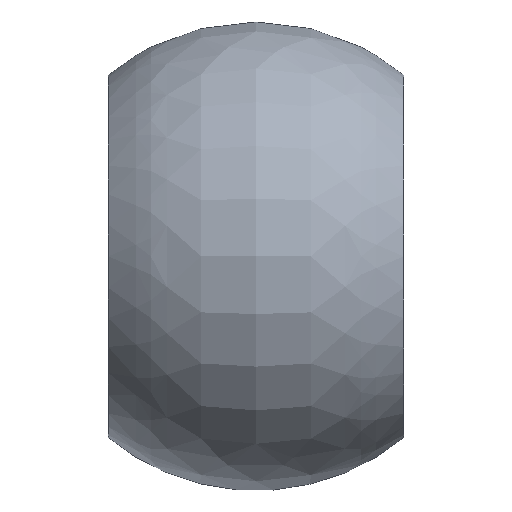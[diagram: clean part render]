
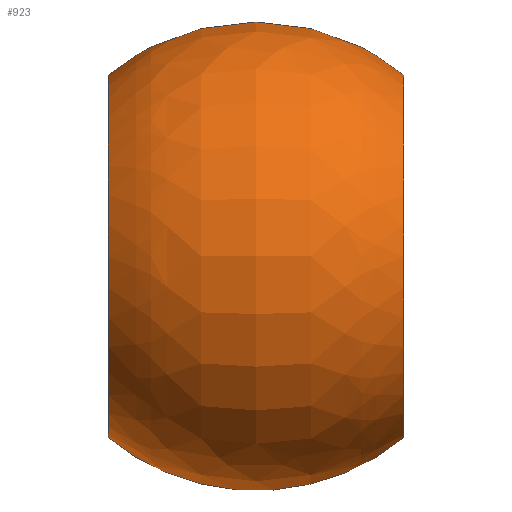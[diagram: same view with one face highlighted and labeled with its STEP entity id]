
A CAD part, left-side view. The second image highlights one B-rep face of the part: STEP entity #923.
In plain terms, the highlighted free-form (B-spline) face has degree [3, 3] with [4, 7] control points.
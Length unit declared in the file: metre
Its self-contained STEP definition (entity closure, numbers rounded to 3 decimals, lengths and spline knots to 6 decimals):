
#923=ADVANCED_FACE('',(#2060,#2061),#2062,.T.);
#2060=FACE_OUTER_BOUND('',#3449,.T.);
#2061=FACE_OUTER_BOUND('',#3450,.T.);
#2062=(B_SPLINE_SURFACE(3,3,((#3452,#3453,#3454,#3455,#3456,#3457,#3458),(#3459,#3460,#3461,#3462,#3463,#3464,#3465),(#3466,#3467,#3468,#3469,#3470,#3471,#3472),(#3473,#3474,#3475,#3476,#3477,#3478,#3479)),.UNSPECIFIED.,.F.,.T.,.F.)B_SPLINE_SURFACE_WITH_KNOTS((4,4),(4,3,4),(0.0,6.283185),(-0.689775,0.,0.689775),.UNSPECIFIED.)RATIONAL_B_SPLINE_SURFACE(((1.0,0.333,0.333,1.0,0.333,0.333,1.0),(0.848,0.283,0.283,0.848,0.283,0.283,0.848),(0.848,0.283,0.283,0.848,0.283,0.283,0.848),(1.0,0.333,0.333,1.0,0.333,0.333,1.0)))BOUNDED_SURFACE()REPRESENTATION_ITEM('')GEOMETRIC_REPRESENTATION_ITEM()SURFACE());
#3449=EDGE_LOOP('',(#5106));
#3450=EDGE_LOOP('',(#5107));
#3452=CARTESIAN_POINT('',(0.21545,-0.106926,-0.042926));
#3453=CARTESIAN_POINT('',(0.301303,-0.106926,-0.042926));
#3454=CARTESIAN_POINT('',(0.301303,-0.106926,0.042926));
#3455=CARTESIAN_POINT('',(0.21545,-0.106926,0.042926));
#3456=CARTESIAN_POINT('',(0.129597,-0.106926,0.042926));
#3457=CARTESIAN_POINT('',(0.129597,-0.106926,-0.042926));
#3458=CARTESIAN_POINT('',(0.21545,-0.106926,-0.042926));
#3459=CARTESIAN_POINT('',(0.21545,-0.08569,-0.060445));
#3460=CARTESIAN_POINT('',(0.33634,-0.08569,-0.060445));
#3461=CARTESIAN_POINT('',(0.33634,-0.08569,0.060445));
#3462=CARTESIAN_POINT('',(0.21545,-0.08569,0.060445));
#3463=CARTESIAN_POINT('',(0.09456,-0.08569,0.060445));
#3464=CARTESIAN_POINT('',(0.09456,-0.08569,-0.060445));
#3465=CARTESIAN_POINT('',(0.21545,-0.08569,-0.060445));
#3466=CARTESIAN_POINT('',(0.21545,-0.058161,-0.060445));
#3467=CARTESIAN_POINT('',(0.33634,-0.058161,-0.060445));
#3468=CARTESIAN_POINT('',(0.33634,-0.058161,0.060445));
#3469=CARTESIAN_POINT('',(0.21545,-0.058161,0.060445));
#3470=CARTESIAN_POINT('',(0.09456,-0.058161,0.060445));
#3471=CARTESIAN_POINT('',(0.09456,-0.058161,-0.060445));
#3472=CARTESIAN_POINT('',(0.21545,-0.058161,-0.060445));
#3473=CARTESIAN_POINT('',(0.21545,-0.036926,-0.042926));
#3474=CARTESIAN_POINT('',(0.301303,-0.036926,-0.042926));
#3475=CARTESIAN_POINT('',(0.301303,-0.036926,0.042926));
#3476=CARTESIAN_POINT('',(0.21545,-0.036926,0.042926));
#3477=CARTESIAN_POINT('',(0.129597,-0.036926,0.042926));
#3478=CARTESIAN_POINT('',(0.129597,-0.036926,-0.042926));
#3479=CARTESIAN_POINT('',(0.21545,-0.036926,-0.042926));
#5106=ORIENTED_EDGE('',*,*,#6077,.T.);
#5107=ORIENTED_EDGE('',*,*,#6174,.F.);
#6077=EDGE_CURVE('',#6910,#6910,#6911,.T.);
#6174=EDGE_CURVE('',#7058,#7058,#7059,.T.);
#6910=VERTEX_POINT('',#7849);
#6911=CIRCLE('',#7850,0.042926);
#7058=VERTEX_POINT('',#7997);
#7059=CIRCLE('',#7998,0.042926);
#7849=CARTESIAN_POINT('',(0.21545,-0.036926,-0.042926));
#7850=AXIS2_PLACEMENT_3D('',#8883,#8884,#8885);
#7997=CARTESIAN_POINT('',(0.21545,-0.106926,-0.042926));
#7998=AXIS2_PLACEMENT_3D('',#9036,#9037,#9038);
#8883=CARTESIAN_POINT('',(0.21545,-0.036926,0.0));
#8884=DIRECTION('',(0.0,-1.0,0.0));
#8885=DIRECTION('',(0.0,0.0,-1.0));
#9036=CARTESIAN_POINT('',(0.21545,-0.106926,0.0));
#9037=DIRECTION('',(0.0,-1.0,0.0));
#9038=DIRECTION('',(0.0,0.0,-1.0));
